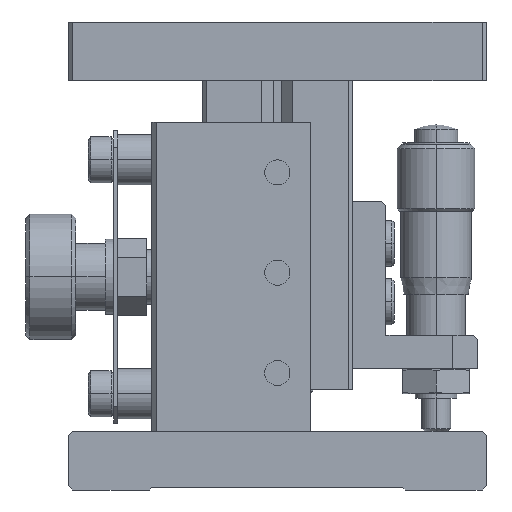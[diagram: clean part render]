
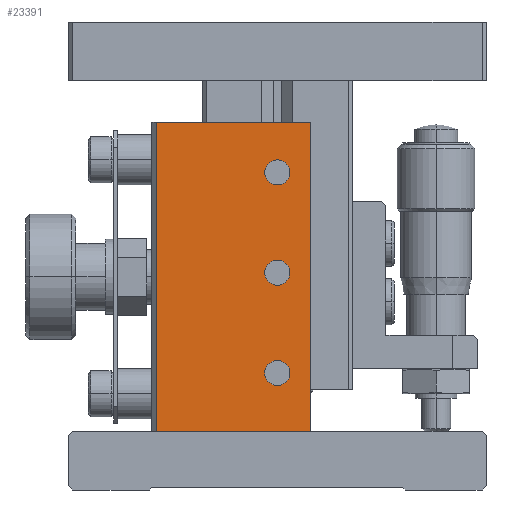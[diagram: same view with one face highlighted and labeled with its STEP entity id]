
A CAD part, front view. The second image highlights one B-rep face of the part: STEP entity #23391.
In plain terms, the highlighted planar face has unit normal (0, -1, 0) as drawn and (0, 1, 0) by its records, which use the part's own axes.
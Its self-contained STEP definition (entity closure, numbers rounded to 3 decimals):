
#10277 = DIRECTION ( 'NONE',  ( 0., 0., 1. ) ) ;
#10278 = DIRECTION ( 'NONE',  ( 0., 1., 0. ) ) ;
#10279 = CARTESIAN_POINT ( 'NONE',  ( 0., 24., -38. ) ) ;
#10280 = AXIS2_PLACEMENT_3D ( 'NONE', #10279, #10278, #10277 ) ;
#10281 = CIRCLE ( 'NONE', #10280, 1.5 ) ;
#10292 = DIRECTION ( 'NONE',  ( 0., 0., 1. ) ) ;
#10293 = VECTOR ( 'NONE', #10292, 1000. ) ;
#10294 = CARTESIAN_POINT ( 'NONE',  ( -14.5, 24., -44. ) ) ;
#10295 = LINE ( 'NONE', #10294, #10293 ) ;
#10305 = CARTESIAN_POINT ( 'NONE',  ( 4., 24., -44. ) ) ;
#10306 = AXIS2_PLACEMENT_3D ( 'NONE', #10305, #10369, #10368 ) ;
#10307 = PLANE ( 'NONE',  #10306 ) ;
#10308 = FACE_OUTER_BOUND ( 'NONE', #23377, .T. ) ;
#10309 = FACE_BOUND ( 'NONE', #23373, .T. ) ;
#10310 = FACE_BOUND ( 'NONE', #23369, .T. ) ;
#10311 = FACE_BOUND ( 'NONE', #23392, .T. ) ;
#10312 = DIRECTION ( 'NONE',  ( 0., 0., 1. ) ) ;
#10313 = VECTOR ( 'NONE', #10312, 1000. ) ;
#10314 = CARTESIAN_POINT ( 'NONE',  ( 4., 24., -44. ) ) ;
#10315 = LINE ( 'NONE', #10314, #10313 ) ;
#10316 = CARTESIAN_POINT ( 'NONE',  ( 4., 24., -44. ) ) ;
#10331 = DIRECTION ( 'NONE',  ( 0., 0., 1. ) ) ;
#10332 = DIRECTION ( 'NONE',  ( 0., 1., 0. ) ) ;
#10333 = CARTESIAN_POINT ( 'NONE',  ( 0., 24., -14. ) ) ;
#10334 = AXIS2_PLACEMENT_3D ( 'NONE', #10333, #10332, #10331 ) ;
#10335 = CIRCLE ( 'NONE', #10334, 1.5 ) ;
#10336 = DIRECTION ( 'NONE',  ( 0., 0., 1. ) ) ;
#10337 = DIRECTION ( 'NONE',  ( 0., 1., 0. ) ) ;
#10338 = CARTESIAN_POINT ( 'NONE',  ( 0., 24., -26. ) ) ;
#10339 = AXIS2_PLACEMENT_3D ( 'NONE', #10338, #10337, #10336 ) ;
#10340 = CIRCLE ( 'NONE', #10339, 1.5 ) ;
#10368 = DIRECTION ( 'NONE',  ( 0., 0., 1. ) ) ;
#10369 = DIRECTION ( 'NONE',  ( 0., 1., 0. ) ) ;
#10429 = CARTESIAN_POINT ( 'NONE',  ( -14.5, 24., -44. ) ) ;
#10430 = DIRECTION ( 'NONE',  ( -1., 0., 0. ) ) ;
#10431 = VECTOR ( 'NONE', #10430, 1000. ) ;
#10432 = CARTESIAN_POINT ( 'NONE',  ( 4., 24., -44. ) ) ;
#10433 = LINE ( 'NONE', #10432, #10431 ) ;
#16016 = VERTEX_POINT ( 'NONE', #28060 ) ;
#16055 = VERTEX_POINT ( 'NONE', #28169 ) ;
#16070 = EDGE_CURVE ( 'NONE', #16016, #16071, #28203, .T. ) ;
#16071 = VERTEX_POINT ( 'NONE', #28198 ) ;
#16082 = VERTEX_POINT ( 'NONE', #28176 ) ;
#16084 = EDGE_CURVE ( 'NONE', #16082, #16055, #28237, .T. ) ;
#16086 = VERTEX_POINT ( 'NONE', #28229 ) ;
#16088 = EDGE_CURVE ( 'NONE', #16086, #16089, #28228, .T. ) ;
#16089 = VERTEX_POINT ( 'NONE', #28223 ) ;
#17076 = VERTEX_POINT ( 'NONE', #30169 ) ;
#17077 = VERTEX_POINT ( 'NONE', #30168 ) ;
#17135 = EDGE_CURVE ( 'NONE', #17076, #17077, #30262, .T. ) ;
#23358 = EDGE_CURVE ( 'NONE', #23437, #17077, #10295, .T. ) ;
#23366 = ORIENTED_EDGE ( 'NONE', *, *, #23367, .F. ) ;
#23367 = EDGE_CURVE ( 'NONE', #16089, #16086, #10281, .T. ) ;
#23368 = ORIENTED_EDGE ( 'NONE', *, *, #16088, .F. ) ;
#23369 = EDGE_LOOP ( 'NONE', ( #23370, #23372 ) ) ;
#23370 = ORIENTED_EDGE ( 'NONE', *, *, #23371, .F. ) ;
#23371 = EDGE_CURVE ( 'NONE', #16071, #16016, #10340, .T. ) ;
#23372 = ORIENTED_EDGE ( 'NONE', *, *, #16070, .F. ) ;
#23373 = EDGE_LOOP ( 'NONE', ( #23374, #23376 ) ) ;
#23374 = ORIENTED_EDGE ( 'NONE', *, *, #23375, .F. ) ;
#23375 = EDGE_CURVE ( 'NONE', #16055, #16082, #10335, .T. ) ;
#23376 = ORIENTED_EDGE ( 'NONE', *, *, #16084, .F. ) ;
#23377 = EDGE_LOOP ( 'NONE', ( #23378, #23379, #23435, #23438 ) ) ;
#23378 = ORIENTED_EDGE ( 'NONE', *, *, #17135, .F. ) ;
#23379 = ORIENTED_EDGE ( 'NONE', *, *, #23390, .F. ) ;
#23388 = VERTEX_POINT ( 'NONE', #10316 ) ;
#23390 = EDGE_CURVE ( 'NONE', #23388, #17076, #10315, .T. ) ;
#23391 = ADVANCED_FACE ( 'NONE', ( #10311, #10310, #10309, #10308 ), #10307, .T. ) ;
#23392 = EDGE_LOOP ( 'NONE', ( #23366, #23368 ) ) ;
#23435 = ORIENTED_EDGE ( 'NONE', *, *, #23436, .T. ) ;
#23436 = EDGE_CURVE ( 'NONE', #23388, #23437, #10433, .T. ) ;
#23437 = VERTEX_POINT ( 'NONE', #10429 ) ;
#23438 = ORIENTED_EDGE ( 'NONE', *, *, #23358, .T. ) ;
#28060 = CARTESIAN_POINT ( 'NONE',  ( 0., 24., -27.5 ) ) ;
#28169 = CARTESIAN_POINT ( 'NONE',  ( 0., 24., -12.5 ) ) ;
#28176 = CARTESIAN_POINT ( 'NONE',  ( 0., 24., -15.5 ) ) ;
#28198 = CARTESIAN_POINT ( 'NONE',  ( 0., 24., -24.5 ) ) ;
#28199 = DIRECTION ( 'NONE',  ( 0., 0., 1. ) ) ;
#28200 = DIRECTION ( 'NONE',  ( 0., 1., 0. ) ) ;
#28201 = CARTESIAN_POINT ( 'NONE',  ( 0., 24., -26. ) ) ;
#28202 = AXIS2_PLACEMENT_3D ( 'NONE', #28201, #28200, #28199 ) ;
#28203 = CIRCLE ( 'NONE', #28202, 1.5 ) ;
#28223 = CARTESIAN_POINT ( 'NONE',  ( 0., 24., -36.5 ) ) ;
#28224 = DIRECTION ( 'NONE',  ( 0., 0., 1. ) ) ;
#28225 = DIRECTION ( 'NONE',  ( 0., 1., 0. ) ) ;
#28226 = CARTESIAN_POINT ( 'NONE',  ( 0., 24., -38. ) ) ;
#28227 = AXIS2_PLACEMENT_3D ( 'NONE', #28226, #28225, #28224 ) ;
#28228 = CIRCLE ( 'NONE', #28227, 1.5 ) ;
#28229 = CARTESIAN_POINT ( 'NONE',  ( 0., 24., -39.5 ) ) ;
#28233 = DIRECTION ( 'NONE',  ( 0., 0., 1. ) ) ;
#28234 = DIRECTION ( 'NONE',  ( 0., 1., 0. ) ) ;
#28235 = CARTESIAN_POINT ( 'NONE',  ( 0., 24., -14. ) ) ;
#28236 = AXIS2_PLACEMENT_3D ( 'NONE', #28235, #28234, #28233 ) ;
#28237 = CIRCLE ( 'NONE', #28236, 1.5 ) ;
#30168 = CARTESIAN_POINT ( 'NONE',  ( -14.5, 24., -7. ) ) ;
#30169 = CARTESIAN_POINT ( 'NONE',  ( 4., 24., -7. ) ) ;
#30259 = DIRECTION ( 'NONE',  ( -1., 0., 0. ) ) ;
#30260 = VECTOR ( 'NONE', #30259, 1000. ) ;
#30261 = CARTESIAN_POINT ( 'NONE',  ( 4., 24., -7. ) ) ;
#30262 = LINE ( 'NONE', #30261, #30260 ) ;
